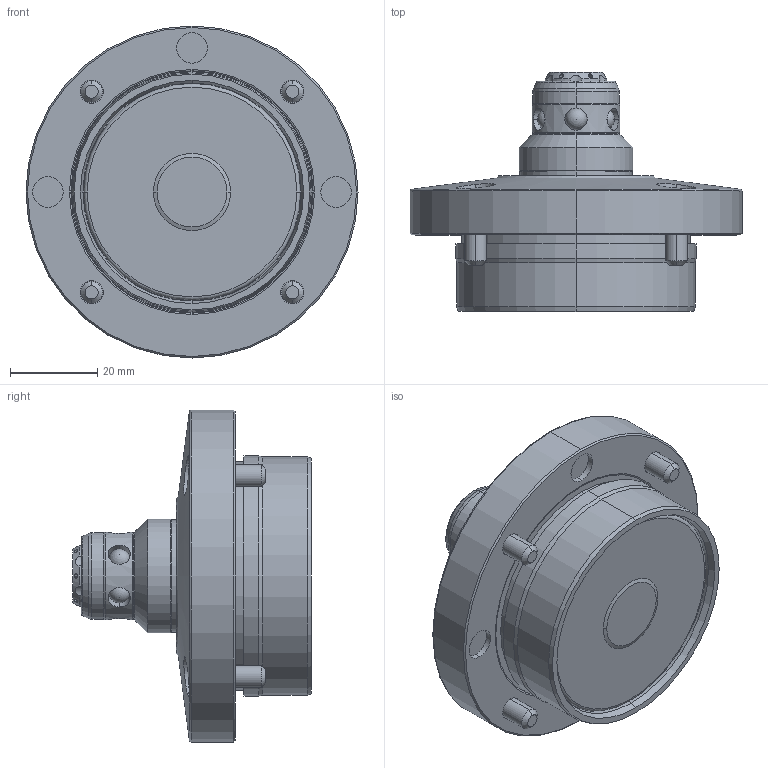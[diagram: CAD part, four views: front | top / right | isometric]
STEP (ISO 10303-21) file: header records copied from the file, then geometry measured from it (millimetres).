
FILE_DESCRIPTION (( 'STEP AP203' ), '1' );
FILE_NAME ('SWT0030-MG.step', '2010-08-04T09:04:29', ( ' ' ), ( ' ' ), 'SwSTEP 2.0', 'SolidWorks 2010', '' );
FILE_SCHEMA (( 'CONFIG_CONTROL_DESIGN' ));
Length unit declared in the file: millimetre
Products named in the file (5): 鋼球_5; SWT0030-MG; 4SW100124; 4SW100126; 6妏寠晅无倌_M5_12
Assembly tree (12 placements, depth 2):
  SWT0030-MG
    4SW100126
    4SW100124
    鋼球_5  x6
    6妏寠晅无倌_M5_12  x4
Bounding box: 76 x 54.7 x 76 mm (x, y, z)
Volume: 97857.2 mm3; surface area: 28487.3 mm2
Topology: 13 solids, 13 shells, 302 faces, 638 edges, 361 vertices
Faces by surface type: cylinder 105, plane 85, cone 82, torus 18, sphere 12
Entity records: 7036 total; most frequent: CARTESIAN_POINT 1870, DIRECTION 999, ORIENTED_EDGE 868, EDGE_CURVE 434, AXIS2_PLACEMENT_3D 425, VERTEX_POINT 258, EDGE_LOOP 242, CIRCLE 211
